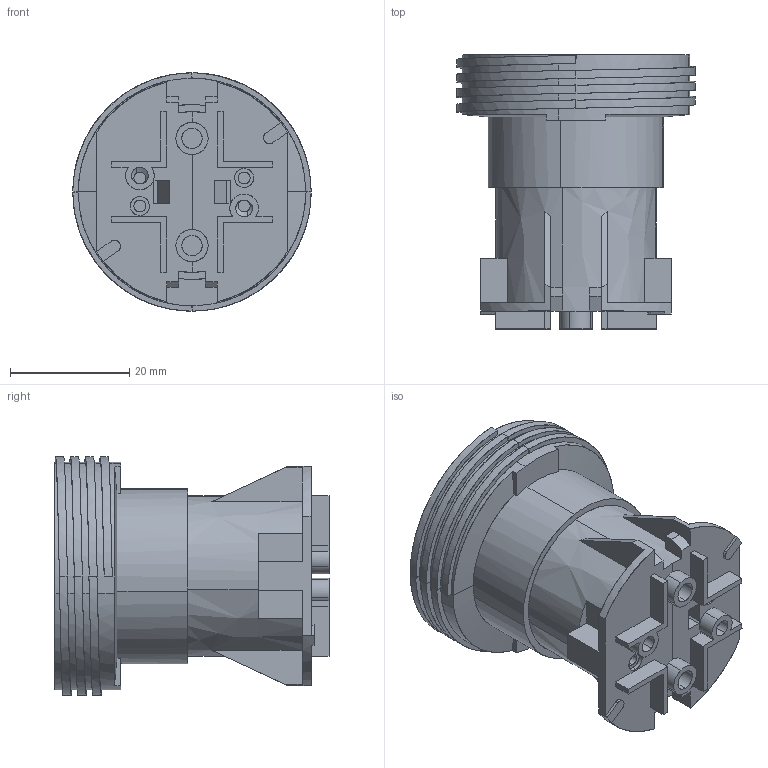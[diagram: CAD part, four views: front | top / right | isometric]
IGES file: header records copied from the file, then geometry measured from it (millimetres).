
Start section: Surface Model. Bezier boundary curves.
Global section: file name: 22_318_3306.igs; native system: TRANS-3D by CORETECH International; preprocessor: 2.1; date: 011023.150238; units: millimetre
Bounding box: 40 x 46 x 40 mm (x, y, z)
Surface area: 12501.5 mm2 (no closed solid volume)
Topology: 0 solids, 0 shells, 547 faces, 3683 edges, 3683 vertices
Faces by surface type: bspline 547
